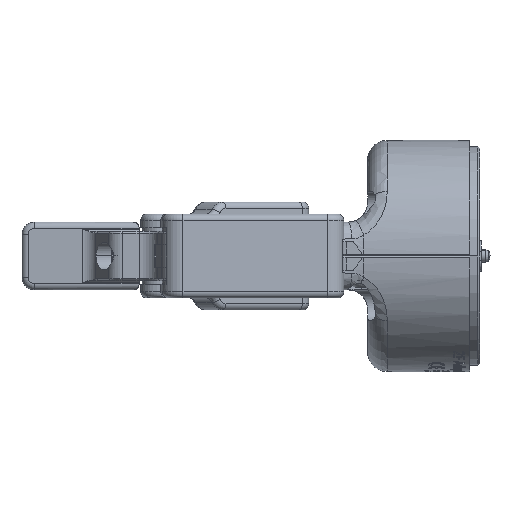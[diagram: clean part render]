
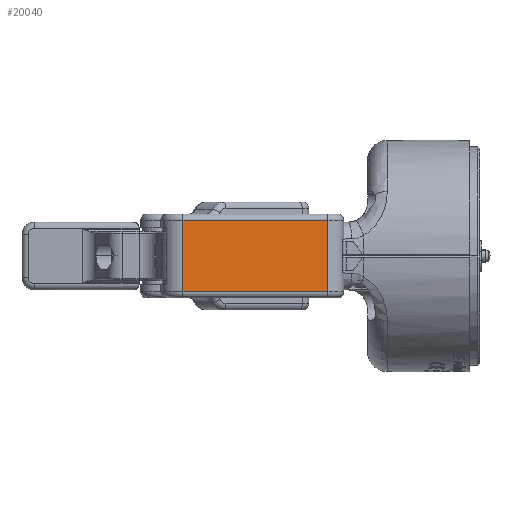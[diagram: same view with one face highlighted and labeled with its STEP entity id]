
A CAD part, left-side view. The second image highlights one B-rep face of the part: STEP entity #20040.
In plain terms, the highlighted planar face has unit normal (-0.99, -0.143, 0).
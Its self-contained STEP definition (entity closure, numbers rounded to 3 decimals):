
#267 = LINE ( 'NONE', #106359, #214631 ) ;
#1790 = EDGE_CURVE ( 'NONE', #43989, #147307, #191120, .T. ) ;
#4448 = VECTOR ( 'NONE', #131966, 1000. ) ;
#6109 = VECTOR ( 'NONE', #206188, 1000. ) ;
#8216 = FACE_OUTER_BOUND ( 'NONE', #20797, .T. ) ;
#15470 = CARTESIAN_POINT ( 'NONE',  ( -77.222, 96.192, 11.6 ) ) ;
#20040 = ADVANCED_FACE ( 'NONE', ( #8216 ), #39704, .F. ) ;
#20797 = EDGE_LOOP ( 'NONE', ( #61372, #44696, #168630, #188997 ) ) ;
#30504 = AXIS2_PLACEMENT_3D ( 'NONE', #211671, #40441, #140078 ) ;
#33663 = LINE ( 'NONE', #157152, #71127 ) ;
#39704 = PLANE ( 'NONE',  #30504 ) ;
#40441 = DIRECTION ( 'NONE',  ( 0.99, 0.143, 0. ) ) ;
#41441 = CARTESIAN_POINT ( 'NONE',  ( -70.439, 49.159, -11.6 ) ) ;
#43989 = VERTEX_POINT ( 'NONE', #109690 ) ;
#44696 = ORIENTED_EDGE ( 'NONE', *, *, #1790, .T. ) ;
#46947 = CARTESIAN_POINT ( 'NONE',  ( -70.439, 49.159, 11.6 ) ) ;
#61372 = ORIENTED_EDGE ( 'NONE', *, *, #121061, .T. ) ;
#62210 = EDGE_CURVE ( 'NONE', #122998, #79802, #267, .T. ) ;
#71127 = VECTOR ( 'NONE', #91220, 1000. ) ;
#75792 = EDGE_CURVE ( 'NONE', #122998, #147307, #33663, .T. ) ;
#79802 = VERTEX_POINT ( 'NONE', #41441 ) ;
#91220 = DIRECTION ( 'NONE',  ( 0., 0., 1. ) ) ;
#106359 = CARTESIAN_POINT ( 'NONE',  ( -70.439, 49.159, -11.6 ) ) ;
#109690 = CARTESIAN_POINT ( 'NONE',  ( -70.439, 49.159, 11.6 ) ) ;
#121061 = EDGE_CURVE ( 'NONE', #79802, #43989, #165238, .T. ) ;
#122843 = DIRECTION ( 'NONE',  ( 0.143, -0.99, 0. ) ) ;
#122998 = VERTEX_POINT ( 'NONE', #190106 ) ;
#131966 = DIRECTION ( 'NONE',  ( 0., 0., 1. ) ) ;
#140078 = DIRECTION ( 'NONE',  ( 0.143, -0.99, 0. ) ) ;
#147307 = VERTEX_POINT ( 'NONE', #15470 ) ;
#157152 = CARTESIAN_POINT ( 'NONE',  ( -77.222, 96.192, -13.6 ) ) ;
#165238 = LINE ( 'NONE', #218620, #4448 ) ;
#168630 = ORIENTED_EDGE ( 'NONE', *, *, #75792, .F. ) ;
#188997 = ORIENTED_EDGE ( 'NONE', *, *, #62210, .T. ) ;
#190106 = CARTESIAN_POINT ( 'NONE',  ( -77.222, 96.192, -11.6 ) ) ;
#191120 = LINE ( 'NONE', #46947, #6109 ) ;
#206188 = DIRECTION ( 'NONE',  ( -0.143, 0.99, 0. ) ) ;
#211671 = CARTESIAN_POINT ( 'NONE',  ( -70.439, 49.159, -13.6 ) ) ;
#214631 = VECTOR ( 'NONE', #122843, 1000. ) ;
#218620 = CARTESIAN_POINT ( 'NONE',  ( -70.439, 49.159, -13.6 ) ) ;
